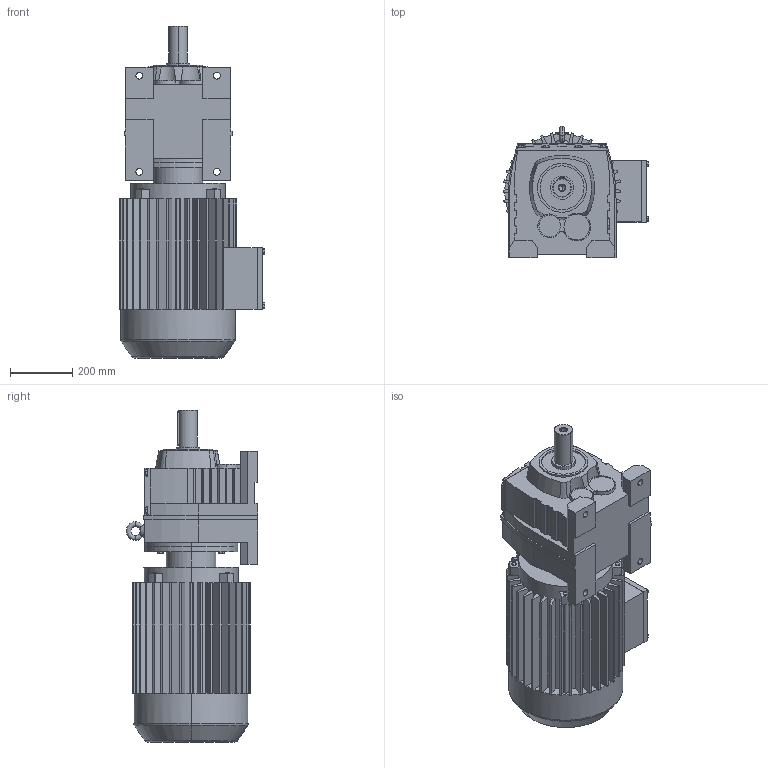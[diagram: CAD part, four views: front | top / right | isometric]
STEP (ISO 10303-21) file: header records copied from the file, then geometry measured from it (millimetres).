
FILE_DESCRIPTION(('Open CASCADE Model'),'2;1');
FILE_NAME('Open CASCADE Shape Model','2021-07-10T15:27:35',('Author'),( 'Open CASCADE'),'Open CASCADE STEP processor 6.3','Open CASCADE 6.3' ,'Unknown');
FILE_SCHEMA(('AUTOMOTIVE_DESIGN_CC2 { 1 2 10303 214 -1 1 5 4 }'));
Length unit declared in the file: millimetre
Products named in the file (3): 1_R97-Y180L; R37‵167_97.step; 萇儂_300_Y180L.step
Assembly tree (2 placements, depth 2):
  1_R97-Y180L
    R37‵167_97.step
    萇儂_300_Y180L.step
Bounding box: 470 x 424 x 1070 mm (x, y, z)
Volume: 88772656.9 mm3; surface area: 2635227.3 mm2
Topology: 2 solids, 2 shells, 736 faces, 1955 edges, 1264 vertices
Faces by surface type: plane 521, cylinder 185, cone 20, torus 10
Entity records: 51166 total; most frequent: CARTESIAN_POINT 13868, DIRECTION 6504, ORIENTED_EDGE 3906, PCURVE 3906, DEFINITIONAL_REPRESENTATION 3906, LINE 3644, VECTOR 3644, EDGE_CURVE 1953
